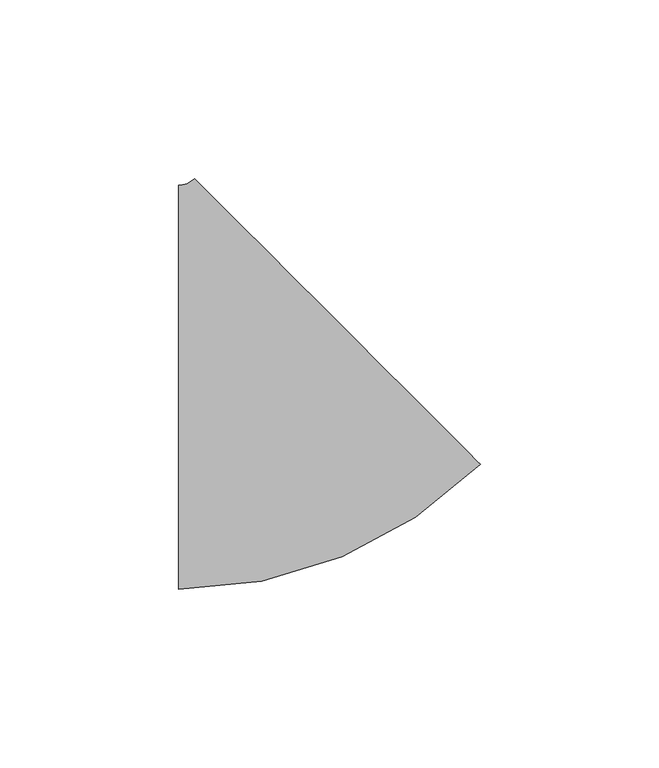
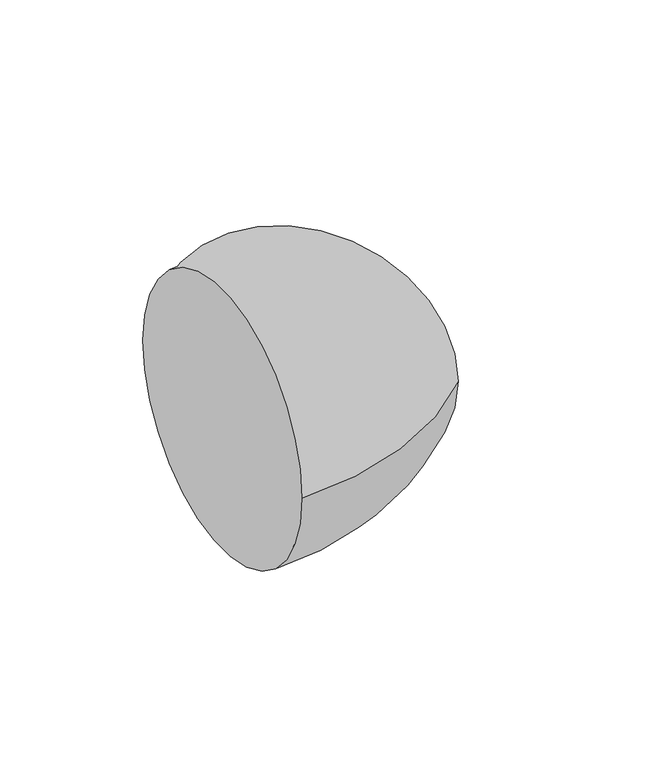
"""IFC4 building model written with IfcOpenShell, lengths in millimetres: pipe fitting geometry, M_Codo - Genérico : Estándar."""

from ifc_helpers import new_model, si_unit, point, frame, origin, place, context, project, spatial, circle_curve, ellipse_curve, trimmed, source, transform, mapped, element, save
from ifc_brep_helpers import plane_surface, revolved_surface, advanced_brep


def pipe_fitting_b2e87967(model_context):
    return source(origin(), model_context, "Body", "AdvancedBrep", [
        advanced_brep(
        [(-26.0882361, -56.5875, 0.0), (-26.0882361, 56.5875, 0.0), (58.4714862, -21.5366321, 0.0), (-21.595835, 58.4496461, 0.0)],
        [
            (0, 1, circle_curve(frame((-26.0882361, 0.0, 0.0), z_axis=(-1.0, 0.0, 0.0), x_axis=(0.0, 1.0, 0.0)), 56.5875)),
            (1, 0, circle_curve(frame((-26.0882361, 0.0, 0.0), z_axis=(-1.0, 0.0, 0.0), x_axis=(0.0, 1.0, 0.0)), 56.5875)),
            (2, 3, circle_curve(frame((18.4378256, 18.456507, 0.0), z_axis=(0.706748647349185, 0.7074647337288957, 0.0), x_axis=(-0.7074647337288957, 0.706748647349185, 0.0)), 56.5875)),
            (3, 2, circle_curve(frame((18.4378256, 18.456507, 0.0), z_axis=(0.706748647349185, 0.7074647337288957, 0.0), x_axis=(-0.7074647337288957, 0.706748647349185, 0.0)), 56.5875)),
            (3, 1, circle_curve(frame((-26.0882361, 62.9375, 0.0), z_axis=(0.0, 0.0, -1.0), x_axis=(0.0, -1.0, 0.0)), 6.35)),
            (0, 2, circle_curve(frame((-26.0882361, 62.9375, 0.0), z_axis=(0.0, 0.0, 1.0), x_axis=(0.0, -1.0, 0.0)), 119.525)),
        ],
        [
            plane_surface(frame((-26.0882361, 0.0, 0.0), z_axis=(-1.0, 0.0, 0.0), x_axis=(0.0, 0.0, 1.0))),
            plane_surface(frame((18.4378256, 18.456507, 0.0), z_axis=(0.706748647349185, 0.7074647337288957, 0.0), x_axis=(0.0, 0.0, 1.0))),
            revolved_surface(trimmed(ellipse_curve(frame((-26.0882361, 0.0, 0.0), z_axis=(-1.0, 0.0, 0.0), x_axis=(0.0, 1.0, 0.0)), 56.5875, 56.5875), [point((-26.0882361, -56.5875, 0.0))], [point((-26.0882361, 56.5875, 0.0))], True, "CARTESIAN"), (-26.0882361, 62.9375, 0.0), (0.0, 0.0, 1.0)),
            revolved_surface(trimmed(ellipse_curve(frame((-26.0882361, 0.0, 0.0), z_axis=(-1.0, 0.0, 0.0), x_axis=(0.0, 1.0, 0.0)), 56.5875, 56.5875), [point((-26.0882361, 56.5875, 0.0))], [point((-26.0882361, -56.5875, 0.0))], True, "CARTESIAN"), (-26.0882361, 62.9375, 0.0), (0.0, 0.0, 1.0)),
        ],
        [
            (0, [[1, 2]]),
            (1, [[3, 4]]),
            (2, [[5, -1, 6, -4]]),
            (3, [[-6, -2, -5, -3]]),
        ],
    ),
    ])


if __name__ == "__main__":
    model = new_model("IFC4")
    model_context = context("Model", 3, world=origin())
    ifc_project = project(units=[si_unit("LENGTHUNIT", "METRE", prefix="MILLI")], contexts=[model_context])
    site = spatial("IfcSite", under=ifc_project)
    building = spatial("IfcBuilding", under=site)
    placement = place(None, origin())
    pipe_fitting_shape = pipe_fitting_b2e87967(model_context)
    element("IfcPipeFitting", 1, ObjectType="M_Codo - Genérico : Estándar", at=placement, inside=building, context=model_context, shape_type="MappedRepresentation", body=[
        mapped(pipe_fitting_shape, transform((0.0, 0.0, 0.0), x_axis=(1.0, 0.0, 0.0), y_axis=(0.0, 1.0, 0.0), z_axis=(0.0, 0.0, 1.0))),
    ])
    save(model, "model.ifc")
